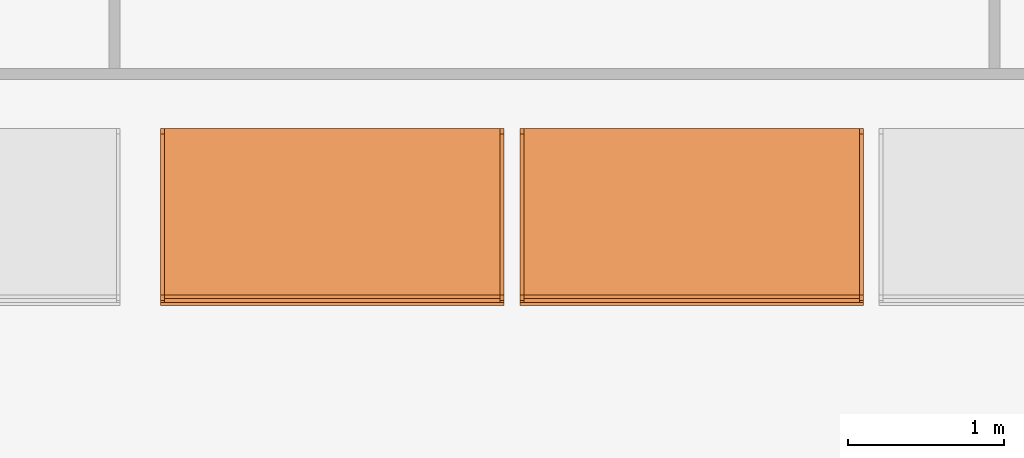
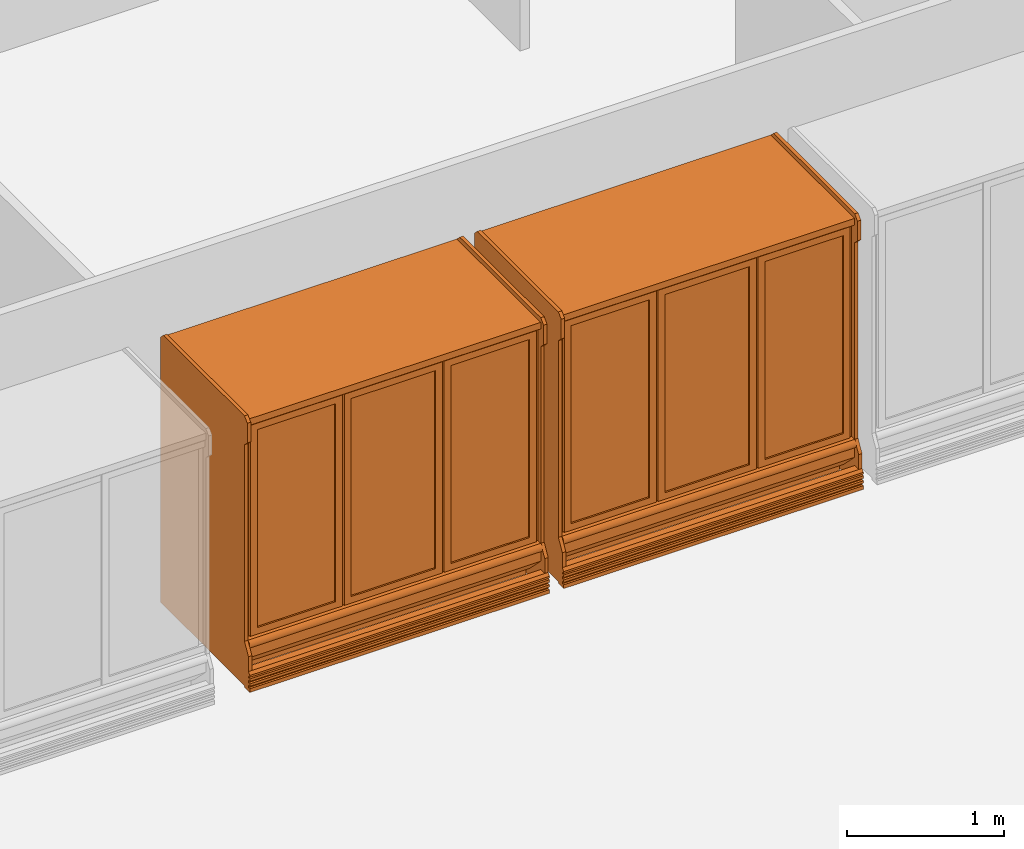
# One storey, part 8 of 11: 2 proxies.
"""IFC2X3 building model written with IfcOpenShell, lengths in metres."""

from ifc_helpers import new_model, entity, si_unit, converted_unit, derived_unit, direction, frame, frame_2d, origin, origin_2d_with_axis, place, context, subcontext, project, spatial, polyline, circle_curve, parameter, trimmed, segment, composite_curve, rectangle, outline, extrude, source, transform, mapped, material, material_list, type_object, type_shapes, element, save


model = new_model("IFC2X3")

# Units and contexts
model_context = context("Model", 3, precision=1e-05, world=origin(), true_north=direction((6.12303176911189e-17, 1.0)))
body_context = subcontext(model_context, "Body", "Model", "MODEL_VIEW")
ifc_project = project(units=[si_unit("LENGTHUNIT", "METRE"), si_unit("AREAUNIT", "SQUARE_METRE"), si_unit("VOLUMEUNIT", "CUBIC_METRE"), converted_unit("PLANEANGLEUNIT", "DEGREE", entity("IfcRatioMeasure", 0.0174532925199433), si_unit("PLANEANGLEUNIT", "RADIAN"), dimensions=[0, 0, 0, 0, 0, 0, 0]), si_unit("MASSUNIT", "GRAM", prefix="KILO"), derived_unit("MASSDENSITYUNIT", [(si_unit("MASSUNIT", "GRAM", prefix="KILO"), 1), (si_unit("LENGTHUNIT", "METRE"), -3)]), si_unit("TIMEUNIT", "SECOND"), si_unit("FREQUENCYUNIT", "HERTZ"), si_unit("THERMODYNAMICTEMPERATUREUNIT", "DEGREE_CELSIUS"), derived_unit("THERMALTRANSMITTANCEUNIT", [(si_unit("MASSUNIT", "GRAM", prefix="KILO"), 1), (si_unit("THERMODYNAMICTEMPERATUREUNIT", "KELVIN"), -1), (si_unit("TIMEUNIT", "SECOND"), -3)]), derived_unit("VOLUMETRICFLOWRATEUNIT", [(si_unit("LENGTHUNIT", "METRE"), 3), (si_unit("TIMEUNIT", "SECOND"), -1)]), si_unit("ELECTRICCURRENTUNIT", "AMPERE"), si_unit("ELECTRICVOLTAGEUNIT", "VOLT"), si_unit("POWERUNIT", "WATT"), si_unit("FORCEUNIT", "NEWTON", prefix="KILO"), si_unit("ILLUMINANCEUNIT", "LUX"), si_unit("LUMINOUSFLUXUNIT", "LUMEN"), si_unit("LUMINOUSINTENSITYUNIT", "CANDELA"), derived_unit("USERDEFINED", [(si_unit("MASSUNIT", "GRAM", prefix="KILO"), -1), (si_unit("LENGTHUNIT", "METRE"), -2), (si_unit("TIMEUNIT", "SECOND"), 3), (si_unit("LUMINOUSFLUXUNIT", "LUMEN"), 1)]), derived_unit("LINEARVELOCITYUNIT", [(si_unit("LENGTHUNIT", "METRE"), 1), (si_unit("TIMEUNIT", "SECOND"), -1)]), si_unit("PRESSUREUNIT", "PASCAL"), derived_unit("USERDEFINED", [(si_unit("LENGTHUNIT", "METRE"), -2), (si_unit("MASSUNIT", "GRAM", prefix="KILO"), 1), (si_unit("TIMEUNIT", "SECOND"), -2)])], contexts=[model_context])

# Site, building, storey
site_placement = place(None, origin())
site = spatial("IfcSite", under=ifc_project, at=site_placement, Name="Default", CompositionType="ELEMENT")
building_placement = place(site_placement, origin())
building = spatial("IfcBuilding", under=site, at=building_placement, CompositionType="ELEMENT")
storey_placement = place(building_placement, frame((0.0, 0.0, 1.49233632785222)))
storey = spatial("IfcBuildingStorey", under=building, at=storey_placement, Name="Niveau 0", CompositionType="ELEMENT", Elevation=1.49233632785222)

# Proxies
ifc_material_1 = material(Name="Métal - Chrome")
ifc_material_2 = material(Name="Verre")
ifc_material_3 = material(Name="Peinture - Blanc")
ifc_material_4 = material(Name="Plastique - Gris foncé")
ifc_material_list_1 = material_list([ifc_material_1, ifc_material_2, ifc_material_3, ifc_material_4])
ifc_material_list_2 = material_list([ifc_material_1, ifc_material_2, ifc_material_3, ifc_material_4])
building_element_proxy_type = type_object("IfcBuildingElementProxyType", Name="2200mm", PredefinedType="NOTDEFINED", material=ifc_material_list_2)
shared_shape = source(origin(), body_context, "Body", "SweptSolid", [
    extrude(outline(polyline([(-0.902820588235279, -0.198746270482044), (-0.902820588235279, -0.211446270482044), (0.824379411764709, -0.211446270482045), (0.824379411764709, -0.198746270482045), (0.608479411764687, -0.198746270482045), (0.608479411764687, -0.0923601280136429), (0.589429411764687, -0.0733101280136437), (0.589429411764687, 0.300798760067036), (0.570379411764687, 0.309681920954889), (0.570379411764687, -0.198746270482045), (0.316379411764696, -0.198746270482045), (0.316379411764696, -0.0876283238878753), (0.297329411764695, -0.0685783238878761), (0.297329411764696, 0.300798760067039), (0.278279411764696, 0.309681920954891), (0.278279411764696, -0.198746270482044), (0.0242794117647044, -0.198746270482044), (0.0242794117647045, -0.0828965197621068), (0.00522941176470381, -0.0638465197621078), (0.00522941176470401, 0.389270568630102), (-0.013820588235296, 0.398153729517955), (-0.0138205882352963, -0.198746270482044), (-0.267820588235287, -0.198746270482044), (-0.267820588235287, -0.0876283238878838), (-0.286870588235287, -0.0685783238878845), (-0.286870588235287, 0.389270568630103), (-0.305920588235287, 0.398153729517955), (-0.305920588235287, -0.198746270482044), (-0.559920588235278, -0.198746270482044), (-0.559920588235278, -0.0828965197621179), (-0.578970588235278, -0.0638465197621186), (-0.578970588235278, 0.385453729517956), (-0.598020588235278, 0.398153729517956), (-0.598020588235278, -0.198746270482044), (-0.902820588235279, -0.198746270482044)])), frame((-1.29363958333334, 0.702953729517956, 1.12917941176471), z_axis=(-1.0, 0.0, 0.0), x_axis=(0.0, 0.0, -1.0)), (0.0, 0.0, -1.0), 0.0126999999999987),
    extrude(rectangle(XDim=0.00634999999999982, YDim=0.574583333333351, at=frame_2d((-2.16840434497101e-18, 1.38777878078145e-16), x_axis=(1.0, 0.0))), frame((-0.942847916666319, 0.0285749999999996, 0.419100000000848), z_axis=(0.0, 0.0, 1.0), x_axis=(0.0, 1.0, 0.0)), (0.0, 0.0, 1.0), 1.53669999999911),
    extrude(outline(polyline([(-0.338091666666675, -0.819149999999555), (0.338091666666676, -0.819149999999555), (0.338091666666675, 0.819149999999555), (-0.338091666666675, 0.819149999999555), (-0.338091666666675, -0.819149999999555)]), holes=[polyline([(-0.287291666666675, -0.768349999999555), (-0.287291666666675, 0.768349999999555), (0.287291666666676, 0.768349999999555), (0.287291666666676, -0.768349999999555), (-0.287291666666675, -0.768349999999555)])]), frame((-0.942847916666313, 0.0126999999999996, 1.1874500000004), z_axis=(0.0, 1.0, 0.0), x_axis=(1.0, 0.0, 0.0)), (0.0, 0.0, 1.0), 0.0253999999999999),
    extrude(rectangle(XDim=0.00634999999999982, YDim=0.619033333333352, at=frame_2d((-2.16840434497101e-18, 0.0), x_axis=(1.0, 0.0))), frame((-1.65395625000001, 0.0285749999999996, 0.419100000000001), z_axis=(0.0, 0.0, 1.0), x_axis=(0.0, 1.0, 0.0)), (0.0, 0.0, 1.0), 1.5367),
    extrude(outline(polyline([(-0.360316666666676, -0.819149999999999), (0.360316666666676, -0.819149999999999), (0.360316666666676, 0.819149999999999), (-0.360316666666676, 0.819149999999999), (-0.360316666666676, -0.819149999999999)]), holes=[polyline([(-0.309516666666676, -0.768349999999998), (-0.309516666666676, 0.768349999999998), (0.309516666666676, 0.768349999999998), (0.309516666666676, -0.768349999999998), (-0.309516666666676, -0.768349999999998)])]), frame((-1.65395625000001, 0.0126999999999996, 1.18745), z_axis=(0.0, 1.0, 0.0), x_axis=(1.0, 0.0, 0.0)), (0.0, 0.0, 1.0), 0.0253999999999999),
    extrude(rectangle(XDim=0.00634999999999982, YDim=0.574583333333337, at=frame_2d((-2.16840434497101e-18, 0.0), x_axis=(1.0, 0.0))), frame((-2.36506458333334, 0.0285749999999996, 0.4191), z_axis=(0.0, 0.0, 1.0), x_axis=(0.0, 1.0, 0.0)), (0.0, 0.0, 1.0), 1.5367),
    extrude(outline(polyline([(-0.81915, -0.338091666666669), (0.81915, -0.338091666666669), (0.81915, 0.338091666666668), (-0.81915, 0.338091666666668), (-0.81915, -0.338091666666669)]), holes=[polyline([(-0.76835, -0.287291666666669), (-0.76835, 0.287291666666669), (0.76835, 0.287291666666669), (0.76835, -0.287291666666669), (-0.76835, -0.287291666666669)])]), frame((-2.36506458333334, 0.0126999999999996, 1.18745), z_axis=(0.0, 1.0, 0.0), x_axis=(0.0, 0.0, -1.0)), (0.0, 0.0, 1.0), 0.0253999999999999),
    extrude(outline(polyline([(-0.88265, -1.0746), (0.88265, -1.0746), (0.88265, 1.0746), (-0.88265, 1.0746), (-0.88265, -1.0746)]), holes=[polyline([(-0.80645, 0.385716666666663), (-0.80645, 1.0365), (0.80645, 1.0365), (0.80645, 0.385716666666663), (-0.80645, 0.385716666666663)]), polyline([(-0.80645, -0.347616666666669), (-0.80645, 0.347616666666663), (0.80645, 0.347616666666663), (0.80645, -0.347616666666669), (-0.80645, -0.347616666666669)]), polyline([(0.80645, -0.385716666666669), (0.80645, -1.0365), (-0.806450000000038, -1.0365), (-0.806450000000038, -0.385716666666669), (0.80645, -0.385716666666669)])]), frame((-1.65395625, 0.0380999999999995, 1.18745), z_axis=(0.0, 1.0, 0.0), x_axis=(0.0, 0.0, -1.0)), (0.0, 0.0, 1.0), 0.0381),
    extrude(outline(composite_curve([segment(trimmed(circle_curve(frame_2d((-0.0095885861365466, 0.0), x_axis=(1.0, 0.0)), 0.0327139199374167), [parameter(287.043889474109)], [parameter(72.9561105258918)], True, "PARAMETER"), True, "CONTINUOUS"), segment(polyline([(0.0, 0.0312771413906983), (0.0, -0.0312771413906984)]), True, "CONTINUOUS")], self_intersect=False)), frame((-2.72855625, 0.0, 0.324322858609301), z_axis=(1.0, 0.0, 0.0), x_axis=(0.0, -1.0, 0.0)), (0.0, 0.0, 1.0), 2.1492),
    extrude(outline(polyline([(-0.058322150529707, -0.045007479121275), (-0.0317412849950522, -0.045007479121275), (-0.0206789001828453, -0.0360006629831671), (-0.0312750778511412, -0.0229861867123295), (-0.0214265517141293, -0.0149676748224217), (-0.0108303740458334, -0.0279821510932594), (0.00394241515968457, -0.0159543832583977), (-0.00665376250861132, -0.00293990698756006), (0.00811902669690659, 0.0090878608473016), (0.0187152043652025, -0.00392661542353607), (0.0334879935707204, 0.00810115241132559), (0.0228918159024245, 0.0211156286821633), (0.0376646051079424, 0.0331433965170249), (0.0482607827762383, 0.0201289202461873), (0.0704563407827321, 0.0382001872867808), (0.0277861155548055, 0.0906087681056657), (-0.0903961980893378, -0.00561337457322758), (-0.058322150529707, -0.045007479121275)])), frame((-2.75395625, -0.052721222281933, 0.0787558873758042), z_axis=(1.0, 0.0, 0.0), x_axis=(0.0, -0.631378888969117, -0.775474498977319)), (0.0, 0.0, 1.0), 2.2),
    extrude(outline(polyline([(-0.78162589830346, -1.01392662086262), (0.249253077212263, -1.01392662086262), (0.285174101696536, -0.978005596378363), (0.285174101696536, -0.825605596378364), (0.249253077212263, -0.789684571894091), (0.249253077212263, 0.736494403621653), (0.300053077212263, 0.824482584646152), (0.300053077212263, 0.939694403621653), (0.249253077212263, 0.939694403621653), (0.249253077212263, 1.07939440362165), (-0.817546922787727, 1.07939440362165), (-0.817546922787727, -0.978005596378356), (-0.78162589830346, -1.01392662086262)])), frame((-0.579356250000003, 0.249253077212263, 1.09209440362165), z_axis=(1.0, 0.0, 0.0), x_axis=(0.0, -1.0, 0.0)), (0.0, 0.0, 1.0), 0.0254000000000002),
    extrude(outline(polyline([(-0.78162589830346, -1.01392662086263), (0.249253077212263, -1.01392662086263), (0.285174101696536, -0.978005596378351), (0.285174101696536, -0.825605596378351), (0.249253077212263, -0.789684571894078), (0.249253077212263, 0.736494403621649), (0.300053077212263, 0.824482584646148), (0.300053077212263, 0.939694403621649), (0.249253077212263, 0.939694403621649), (0.249253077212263, 1.07939440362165), (-0.817546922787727, 1.07939440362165), (-0.817546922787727, -0.97800559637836), (-0.78162589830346, -1.01392662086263)])), frame((-2.75395625, 0.249253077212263, 1.09209440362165), z_axis=(1.0, 0.0, 0.0), x_axis=(0.0, -1.0, 0.0)), (0.0, 0.0, 1.0), 0.0253999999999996),
    extrude(rectangle(XDim=2.1238, YDim=0.6096, at=origin_2d_with_axis()), frame((-1.65395625, 0.596900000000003, 0.558800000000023)), (0.0, 0.0, 1.0), 0.009525),
    extrude(rectangle(XDim=2.1238, YDim=0.6096, at=origin_2d_with_axis()), frame((-1.65395625, 0.596900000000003, 1.72719999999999)), (0.0, 0.0, 1.0), 0.009525),
    extrude(rectangle(XDim=2.1238, YDim=0.6096, at=origin_2d_with_axis()), frame((-1.65395625, 0.596900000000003, 1.4351)), (0.0, 0.0, 1.0), 0.009525),
    extrude(rectangle(XDim=2.1238, YDim=0.6096, at=frame_2d((0.0, -5.55111512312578e-17), x_axis=(1.0, 0.0))), frame((-1.65395625, 0.596900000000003, 1.14300000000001)), (0.0, 0.0, 1.0), 0.009525),
    extrude(rectangle(XDim=2.1238, YDim=0.6096, at=frame_2d((0.0, -5.55111512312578e-17), x_axis=(1.0, 0.0))), frame((-1.65395625, 0.596900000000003, 0.850900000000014)), (0.0, 0.0, 1.0), 0.009525),
    extrude(outline(polyline([(-0.902820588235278, -0.198746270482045), (-0.902820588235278, -0.211446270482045), (0.82437941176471, -0.211446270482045), (0.82437941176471, -0.198746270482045), (0.608479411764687, -0.198746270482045), (0.608479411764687, -0.0923601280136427), (0.589429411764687, -0.0733101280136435), (0.589429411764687, 0.300798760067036), (0.570379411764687, 0.309681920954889), (0.570379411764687, -0.198746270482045), (0.316379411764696, -0.198746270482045), (0.316379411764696, -0.0876283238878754), (0.297329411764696, -0.0685783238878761), (0.297329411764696, 0.300798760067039), (0.278279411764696, 0.309681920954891), (0.278279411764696, -0.198746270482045), (0.0242794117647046, -0.198746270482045), (0.0242794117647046, -0.0828965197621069), (0.00522941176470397, -0.063846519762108), (0.00522941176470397, 0.389270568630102), (-0.013820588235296, 0.398153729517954), (-0.013820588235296, -0.198746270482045), (-0.267820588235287, -0.198746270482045), (-0.267820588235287, -0.0876283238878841), (-0.286870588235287, -0.0685783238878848), (-0.286870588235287, 0.389270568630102), (-0.305920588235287, 0.398153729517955), (-0.305920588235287, -0.198746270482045), (-0.559920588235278, -0.198746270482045), (-0.559920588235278, -0.0828965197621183), (-0.578970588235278, -0.0638465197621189), (-0.578970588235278, 0.385453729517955), (-0.598020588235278, 0.398153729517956), (-0.598020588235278, -0.198746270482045), (-0.902820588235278, -0.198746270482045)])), frame((-2.02683434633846, 0.702953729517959, 1.12917941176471), z_axis=(-1.0, 0.0, 0.0), x_axis=(0.0, 0.0, -1.0)), (0.0, 0.0, -1.0), 0.0124228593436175),
    extrude(outline(polyline([(-0.902820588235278, -0.198746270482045), (-0.902820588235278, -0.211446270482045), (0.82437941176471, -0.211446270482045), (0.82437941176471, -0.198746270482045), (0.608479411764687, -0.198746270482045), (0.608479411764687, -0.0923601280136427), (0.589429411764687, -0.0733101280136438), (0.589429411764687, 0.300798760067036), (0.570379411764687, 0.309681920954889), (0.570379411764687, -0.198746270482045), (0.316379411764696, -0.198746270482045), (0.316379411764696, -0.0876283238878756), (0.297329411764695, -0.068578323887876), (0.297329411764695, 0.300798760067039), (0.278279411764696, 0.309681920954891), (0.278279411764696, -0.198746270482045), (0.0242794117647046, -0.198746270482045), (0.0242794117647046, -0.0828965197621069), (0.00522941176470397, -0.063846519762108), (0.00522941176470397, 0.389270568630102), (-0.013820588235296, 0.398153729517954), (-0.013820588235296, -0.198746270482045), (-0.267820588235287, -0.198746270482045), (-0.267820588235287, -0.0876283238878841), (-0.286870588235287, -0.0685783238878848), (-0.286870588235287, 0.389270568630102), (-0.305920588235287, 0.398153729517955), (-0.305920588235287, -0.198746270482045), (-0.559920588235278, -0.198746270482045), (-0.559920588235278, -0.0828965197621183), (-0.578970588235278, -0.0638465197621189), (-0.578970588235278, 0.385453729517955), (-0.598020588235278, 0.398153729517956), (-0.598020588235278, -0.198746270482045), (-0.902820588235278, -0.198746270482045)])), frame((-0.604756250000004, 0.702953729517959, 1.12917941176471), z_axis=(-1.0, 0.0, 0.0), x_axis=(0.0, 0.0, -1.0)), (0.0, 0.0, -1.0), 0.0127000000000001),
    extrude(outline(polyline([(-0.902820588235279, -0.198746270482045), (-0.902820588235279, -0.211446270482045), (0.824379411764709, -0.211446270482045), (0.824379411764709, -0.198746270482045), (0.608479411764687, -0.198746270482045), (0.608479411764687, -0.0923601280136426), (0.589429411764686, -0.0733101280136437), (0.589429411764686, 0.300798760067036), (0.570379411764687, 0.309681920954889), (0.570379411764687, -0.198746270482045), (0.316379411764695, -0.198746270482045), (0.316379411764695, -0.0876283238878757), (0.297329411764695, -0.0685783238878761), (0.297329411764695, 0.300798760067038), (0.278279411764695, 0.309681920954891), (0.278279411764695, -0.198746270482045), (0.0242794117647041, -0.198746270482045), (0.0242794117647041, -0.082896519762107), (0.00522941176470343, -0.0638465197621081), (0.00522941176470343, 0.389270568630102), (-0.0138205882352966, 0.398153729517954), (-0.0138205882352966, -0.198746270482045), (-0.267820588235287, -0.198746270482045), (-0.267820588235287, -0.0876283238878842), (-0.286870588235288, -0.0685783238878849), (-0.286870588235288, 0.389270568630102), (-0.305920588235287, 0.398153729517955), (-0.305920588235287, -0.198746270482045), (-0.559920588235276, -0.198746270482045), (-0.559920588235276, -0.0828965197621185), (-0.578970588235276, -0.0638465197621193), (-0.578970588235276, 0.385453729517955), (-0.598020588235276, 0.398153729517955), (-0.598020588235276, -0.198746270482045), (-0.902820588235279, -0.198746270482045)])), frame((-2.71585625, 0.702953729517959, 1.12917941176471), z_axis=(-1.0, 0.0, 0.0), x_axis=(0.0, 0.0, -1.0)), (0.0, 0.0, -1.0), 0.0127000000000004),
    extrude(outline(polyline([(-0.99836485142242, -0.344904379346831), (-0.947564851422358, -0.344904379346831), (-0.947564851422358, -0.192504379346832), (-0.960264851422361, -0.192504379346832), (-0.960264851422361, 0.569495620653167), (0.766935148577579, 0.569495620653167), (0.766935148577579, -0.306804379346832), (0.716135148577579, -0.306804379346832), (0.716135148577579, -0.344904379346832), (0.855178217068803, -0.344904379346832), (0.995535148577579, -0.204547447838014), (0.995535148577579, 0.721895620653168), (-0.99836485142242, 0.721895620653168), (-0.99836485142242, -0.344904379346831)])), frame((-2.72855625, 0.344904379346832, 1.07173514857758), z_axis=(1.0, 0.0, 0.0), x_axis=(0.0, 0.0, -1.0)), (0.0, 0.0, 1.0), 2.1492),
    extrude(rectangle(XDim=2.1492, YDim=0.85725, at=frame_2d((2.22044604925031e-16, 0.0), x_axis=(1.0, 0.0))), frame((-1.65395625, 0.619125, 0.0), z_axis=(0.0, 0.0, 1.0), x_axis=(-1.0, 0.0, 0.0)), (0.0, 0.0, 1.0), 0.0762),
])
type_shapes(building_element_proxy_type, [shared_shape])
proxy_1_placement = place(storey_placement, frame((23.6891026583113, -1.06468697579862, 0.0)))
element("IfcBuildingElementProxy", 1, at=proxy_1_placement, inside=storey, type_object=building_element_proxy_type, material=ifc_material_list_1, Name="Congélateur - Vertical trois portes:2200mm", ObjectType="Congélateur - Vertical trois portes:2200mm", context=body_context, shape_type="MappedRepresentation", body=[
    mapped(shared_shape, transform((0.0, 0.0, 0.0), scale=1.0)),
])
ifc_material_list_3 = material_list([ifc_material_1, ifc_material_2, ifc_material_3, ifc_material_4])
proxy_2_placement = place(storey_placement, frame((21.385179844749, -1.06468697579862, 0.0)))
element("IfcBuildingElementProxy", 2, at=proxy_2_placement, inside=storey, type_object=building_element_proxy_type, material=ifc_material_list_3, Name="Congélateur - Vertical trois portes:2200mm", ObjectType="Congélateur - Vertical trois portes:2200mm", context=body_context, shape_type="MappedRepresentation", body=[
    mapped(shared_shape, transform((0.0, 0.0, 0.0), scale=1.0)),
])

save(model, "model.ifc")
